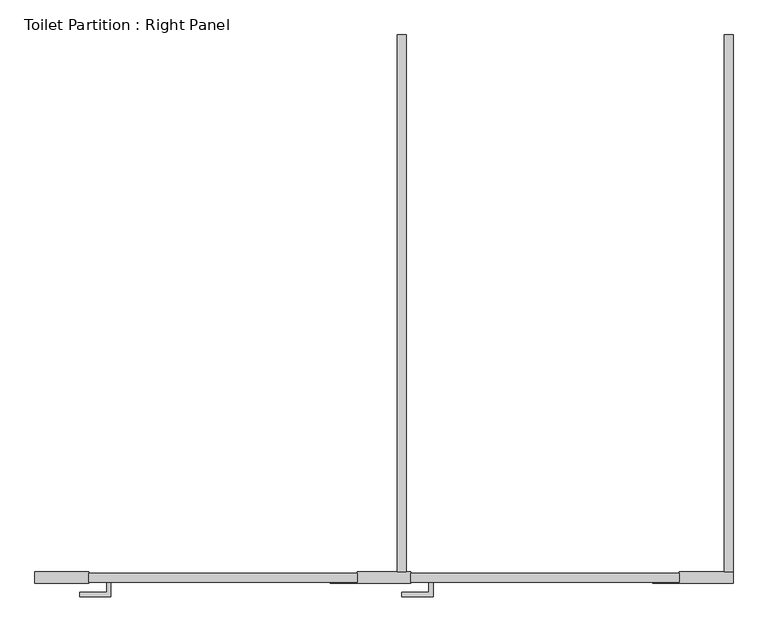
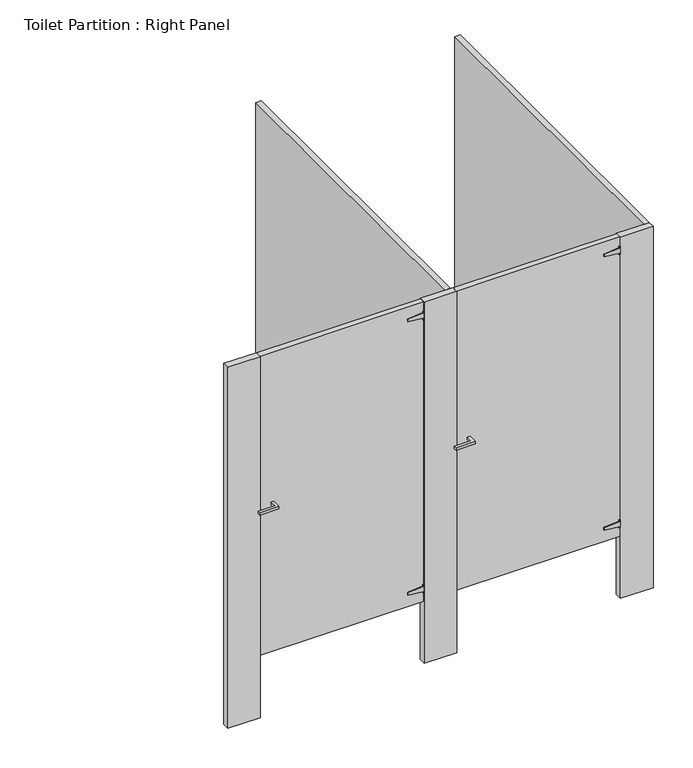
"""IFC4 building model written with IfcOpenShell, lengths in millimetres: proxy geometry, Toilet Partition : Right Panel."""

from ifc_helpers import new_model, si_unit, frame, origin, origin_with_axes, place, context, project, spatial, polyline, outline, extrude, source, transform, mapped, element, save


def toilet_partition_right_panel_75b5ee8c(model_context):
    return source(origin(), model_context, "Body", "SweptSolid", [
        extrude(outline(polyline([(889.0, 1555.75), (914.4, 1555.75), (914.4, 31.75), (889.0, 31.75), (889.0, 1555.75)])), frame((0.0, 0.0, 304.8), z_axis=(0.0, 0.0, 1.0), x_axis=(1.0, 0.0, 0.0)), (0.0, 0.0, 1.0), 1473.2),
        extrude(outline(polyline([(50.8, 3.175), (63.5, 3.175), (63.5, -38.1), (-25.4, -38.1), (-25.4, -25.4), (50.8, -25.4), (50.8, 3.175)])), frame((0.0, 0.0, 1028.7), z_axis=(0.0, 0.0, 1.0), x_axis=(1.0, 0.0, 0.0)), (0.0, 0.0, 1.0), 12.7),
        extrude(outline(polyline([(1708.4666362, 685.8), (1702.355553, 755.65), (1695.45, 755.65), (1695.45, 762.0), (1733.55, 762.0), (1733.55, 755.65), (1726.644447, 755.65), (1720.5333638, 685.8), (1708.4666362, 685.8)])), frame((0.0, 0.0, 0.0), z_axis=(0.0, 1.0, 0.0), x_axis=(0.0, 0.0, 1.0)), (0.0, 0.0, 1.0), 3.175),
        extrude(outline(polyline([(374.3333638, 685.8), (362.2666362, 685.8), (356.155553, 755.65), (349.25, 755.65), (349.25, 762.0), (387.35, 762.0), (387.35, 755.65), (380.444447, 755.65), (374.3333638, 685.8)])), frame((0.0, 0.0, 0.0), z_axis=(0.0, 1.0, 0.0), x_axis=(0.0, 0.0, 1.0)), (0.0, 0.0, 1.0), 3.175),
        extrude(outline(polyline([(762.0, 3.175), (0.0, 3.175), (0.0, 28.575), (762.0, 28.575), (762.0, 3.175)])), frame((0.0, 0.0, 304.8), z_axis=(0.0, 0.0, 1.0), x_axis=(1.0, 0.0, 0.0)), (0.0, 0.0, 1.0), 1473.2),
        extrude(outline(polyline([(914.4, 0.0), (762.0, 0.0), (762.0, 31.75), (914.4, 31.75), (914.4, 0.0)])), origin_with_axes(), (0.0, 0.0, 1.0), 1778.0),
        extrude(outline(polyline([(-38.1, 1555.75), (-12.7, 1555.75), (-12.7, 31.75), (-38.1, 31.75), (-38.1, 1555.75)])), frame((0.0, 0.0, 304.8), z_axis=(0.0, 0.0, 1.0), x_axis=(1.0, 0.0, 0.0)), (0.0, 0.0, 1.0), 1473.2),
        extrude(outline(polyline([(-863.6, 3.175), (-850.9, 3.175), (-850.9, -38.1), (-939.8, -38.1), (-939.8, -25.4), (-863.6, -25.4), (-863.6, 3.175)])), frame((0.0, 0.0, 1028.7), z_axis=(0.0, 0.0, 1.0), x_axis=(1.0, 0.0, 0.0)), (0.0, 0.0, 1.0), 12.7),
        extrude(outline(polyline([(1708.4666362, -228.6), (1702.355553, -158.75), (1695.45, -158.75), (1695.45, -152.4), (1733.55, -152.4), (1733.55, -158.75), (1726.644447, -158.75), (1720.5333638, -228.6), (1708.4666362, -228.6)])), frame((0.0, 0.0, 0.0), z_axis=(0.0, 1.0, 0.0), x_axis=(0.0, 0.0, 1.0)), (0.0, 0.0, 1.0), 3.175),
        extrude(outline(polyline([(374.3333638, -228.6), (362.2666362, -228.6), (356.155553, -158.75), (349.25, -158.75), (349.25, -152.4), (387.35, -152.4), (387.35, -158.75), (380.444447, -158.75), (374.3333638, -228.6)])), frame((0.0, 0.0, 0.0), z_axis=(0.0, 1.0, 0.0), x_axis=(0.0, 0.0, 1.0)), (0.0, 0.0, 1.0), 3.175),
        extrude(outline(polyline([(-152.4, 3.175), (-914.4, 3.175), (-914.4, 28.575), (-152.4, 28.575), (-152.4, 3.175)])), frame((0.0, 0.0, 304.8), z_axis=(0.0, 0.0, 1.0), x_axis=(1.0, 0.0, 0.0)), (0.0, 0.0, 1.0), 1473.2),
        extrude(outline(polyline([(0.0, 0.0), (-152.4, 0.0), (-152.4, 31.75), (0.0, 31.75), (0.0, 0.0)])), origin_with_axes(), (0.0, 0.0, 1.0), 1778.0),
        extrude(outline(polyline([(-914.4, 0.0), (-1066.8, 0.0), (-1066.8, 31.75), (-914.4, 31.75), (-914.4, 0.0)])), origin_with_axes(), (0.0, 0.0, 1.0), 1778.0),
    ])


if __name__ == "__main__":
    model = new_model("IFC4")
    model_context = context("Model", 3, world=origin())
    ifc_project = project(units=[si_unit("LENGTHUNIT", "METRE", prefix="MILLI")], contexts=[model_context])
    site = spatial("IfcSite", under=ifc_project)
    building = spatial("IfcBuilding", under=site)
    placement = place(None, origin())
    toilet_partition_right_panel_shape = toilet_partition_right_panel_75b5ee8c(model_context)
    element("IfcBuildingElementProxy", 1, Name="Toilet Partition : Right Panel", ObjectType="Toilet Partition : Right Panel", at=placement, inside=building, context=model_context, shape_type="MappedRepresentation", body=[
        mapped(toilet_partition_right_panel_shape, transform((0.0, 0.0, 0.0), x_axis=(1.0, 0.0, 0.0), y_axis=(0.0, 1.0, 0.0), z_axis=(0.0, 0.0, 1.0))),
    ])
    save(model, "model.ifc")
